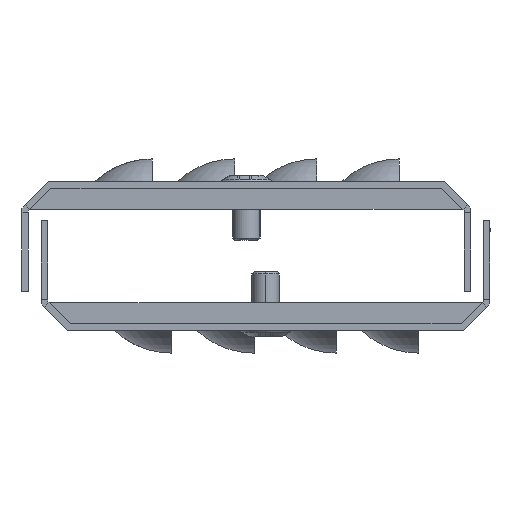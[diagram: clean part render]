
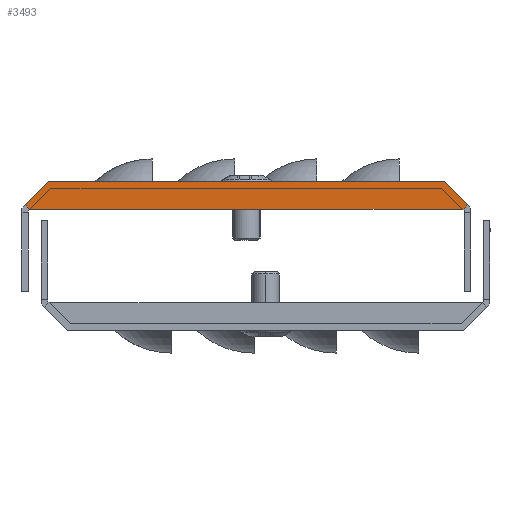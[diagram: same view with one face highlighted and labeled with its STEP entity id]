
A CAD part, left-side view. The second image highlights one B-rep face of the part: STEP entity #3493.
In plain terms, the highlighted planar face has unit normal (-1, 0, 0).
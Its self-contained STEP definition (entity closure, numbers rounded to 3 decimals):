
#330 = CARTESIAN_POINT ( 'NONE',  ( -595., -5.75, 0. ) ) ;
#384 = AXIS2_PLACEMENT_3D ( 'NONE', #7451, #5334, #6306 ) ;
#1271 = ORIENTED_EDGE ( 'NONE', *, *, #9574, .T. ) ;
#1377 = CARTESIAN_POINT ( 'NONE',  ( -595., -1.693, -6.037 ) ) ;
#1469 = VERTEX_POINT ( 'NONE', #8851 ) ;
#1602 = CARTESIAN_POINT ( 'NONE',  ( -595., -97.403, -5.047 ) ) ;
#1764 = CARTESIAN_POINT ( 'NONE',  ( -595., -96.413, -6.037 ) ) ;
#1825 = PLANE ( 'NONE',  #384 ) ;
#2204 = VERTEX_POINT ( 'NONE', #5855 ) ;
#2420 = CARTESIAN_POINT ( 'NONE',  ( -595., -0.703, -5.047 ) ) ;
#2565 = DIRECTION ( 'NONE',  ( 0., 0.707, 0.707 ) ) ;
#2740 = VECTOR ( 'NONE', #2565, 1000. ) ;
#3234 = DIRECTION ( 'NONE',  ( 0., 1., 0. ) ) ;
#3274 = EDGE_CURVE ( 'NONE', #9343, #1469, #8976, .T. ) ;
#3416 = CARTESIAN_POINT ( 'NONE',  ( -595., -92.356, 0. ) ) ;
#3450 = CARTESIAN_POINT ( 'NONE',  ( -595., -96.413, -6.037 ) ) ;
#3493 = ADVANCED_FACE ( 'NONE', ( #3756 ), #1825, .F. ) ;
#3654 = VECTOR ( 'NONE', #8049, 1000. ) ;
#3670 = VECTOR ( 'NONE', #8673, 1000. ) ;
#3756 = FACE_OUTER_BOUND ( 'NONE', #6478, .T. ) ;
#3984 = ORIENTED_EDGE ( 'NONE', *, *, #3274, .T. ) ;
#4225 = EDGE_CURVE ( 'NONE', #9898, #6843, #11862, .T. ) ;
#4483 = CARTESIAN_POINT ( 'NONE',  ( -595., -1.693, -6.037 ) ) ;
#4717 = LINE ( 'NONE', #9161, #6277 ) ;
#4817 = VECTOR ( 'NONE', #7261, 1000. ) ;
#4931 = VERTEX_POINT ( 'NONE', #1377 ) ;
#4997 = EDGE_CURVE ( 'NONE', #6843, #9343, #10624, .T. ) ;
#5156 = CARTESIAN_POINT ( 'NONE',  ( -595., -92.356, 0. ) ) ;
#5235 = ORIENTED_EDGE ( 'NONE', *, *, #11481, .T. ) ;
#5334 = DIRECTION ( 'NONE',  ( 1., 0., 0. ) ) ;
#5544 = ORIENTED_EDGE ( 'NONE', *, *, #10866, .T. ) ;
#5759 = VECTOR ( 'NONE', #3234, 1000. ) ;
#5855 = CARTESIAN_POINT ( 'NONE',  ( -595., -96.249, -6.037 ) ) ;
#6174 = ORIENTED_EDGE ( 'NONE', *, *, #4225, .T. ) ;
#6277 = VECTOR ( 'NONE', #11939, 1000. ) ;
#6306 = DIRECTION ( 'NONE',  ( 0., -1., 0. ) ) ;
#6461 = VECTOR ( 'NONE', #11162, 1000. ) ;
#6478 = EDGE_LOOP ( 'NONE', ( #5544, #11921, #7507, #1271, #6174, #9351, #3984, #5235 ) ) ;
#6776 = EDGE_CURVE ( 'NONE', #4931, #8138, #7277, .T. ) ;
#6843 = VERTEX_POINT ( 'NONE', #1602 ) ;
#7015 = CARTESIAN_POINT ( 'NONE',  ( -595., -0.703, -5.047 ) ) ;
#7080 = LINE ( 'NONE', #10775, #6461 ) ;
#7261 = DIRECTION ( 'NONE',  ( 0., -0.707, 0.707 ) ) ;
#7277 = LINE ( 'NONE', #4483, #7796 ) ;
#7451 = CARTESIAN_POINT ( 'NONE',  ( -595., -6.744, -2.4 ) ) ;
#7507 = ORIENTED_EDGE ( 'NONE', *, *, #9081, .T. ) ;
#7769 = LINE ( 'NONE', #330, #3670 ) ;
#7796 = VECTOR ( 'NONE', #11761, 1000. ) ;
#8049 = DIRECTION ( 'NONE',  ( 0., -0.707, -0.707 ) ) ;
#8138 = VERTEX_POINT ( 'NONE', #10505 ) ;
#8673 = DIRECTION ( 'NONE',  ( 0., 0.707, -0.707 ) ) ;
#8851 = CARTESIAN_POINT ( 'NONE',  ( -595., -5.75, 0. ) ) ;
#8950 = VERTEX_POINT ( 'NONE', #2420 ) ;
#8976 = LINE ( 'NONE', #5156, #5759 ) ;
#9081 = EDGE_CURVE ( 'NONE', #8138, #2204, #7080, .T. ) ;
#9161 = CARTESIAN_POINT ( 'NONE',  ( -595., -96.413, -6.037 ) ) ;
#9343 = VERTEX_POINT ( 'NONE', #3416 ) ;
#9351 = ORIENTED_EDGE ( 'NONE', *, *, #4997, .T. ) ;
#9574 = EDGE_CURVE ( 'NONE', #2204, #9898, #4717, .T. ) ;
#9791 = LINE ( 'NONE', #7015, #3654 ) ;
#9898 = VERTEX_POINT ( 'NONE', #1764 ) ;
#10505 = CARTESIAN_POINT ( 'NONE',  ( -595., -1.857, -6.037 ) ) ;
#10624 = LINE ( 'NONE', #11582, #2740 ) ;
#10775 = CARTESIAN_POINT ( 'NONE',  ( -595., -49.053, -6.037 ) ) ;
#10866 = EDGE_CURVE ( 'NONE', #8950, #4931, #9791, .T. ) ;
#11162 = DIRECTION ( 'NONE',  ( 0., -1., 0. ) ) ;
#11481 = EDGE_CURVE ( 'NONE', #1469, #8950, #7769, .T. ) ;
#11582 = CARTESIAN_POINT ( 'NONE',  ( -595., -92.356, 0. ) ) ;
#11761 = DIRECTION ( 'NONE',  ( 0., -1., 0. ) ) ;
#11862 = LINE ( 'NONE', #3450, #4817 ) ;
#11921 = ORIENTED_EDGE ( 'NONE', *, *, #6776, .T. ) ;
#11939 = DIRECTION ( 'NONE',  ( 0., -1., 0. ) ) ;
